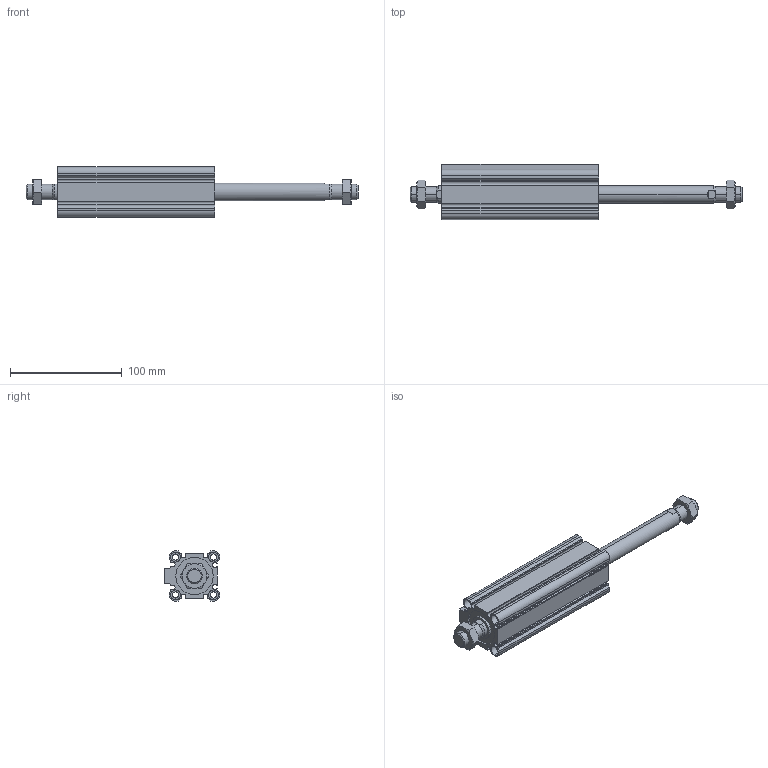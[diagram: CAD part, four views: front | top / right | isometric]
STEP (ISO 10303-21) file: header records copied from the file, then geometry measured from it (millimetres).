
FILE_DESCRIPTION (( 'STEP AP203' ), '1' );
FILE_NAME ('CCMB32-100M-P.STEP', '2020-08-10T11:36:37', ( '' ), ( '' ), 'SwSTEP 2.0', 'SolidWorks 2019', '' );
FILE_SCHEMA (( 'CONFIG_CONTROL_DESIGN' ));
Length unit declared in the file: millimetre
Products named in the file (1): CCMB32-100M-P
Bounding box: 297.5 x 49.5 x 45 mm (x, y, z)
Volume: 203257.5 mm3; surface area: 84162.2 mm2
Topology: 4 solids, 4 shells, 216 faces, 522 edges, 332 vertices
Faces by surface type: plane 94, cylinder 78, cone 44
Entity records: 7009 total; most frequent: CARTESIAN_POINT 1819, DIRECTION 1088, ORIENTED_EDGE 1044, EDGE_CURVE 522, AXIS2_PLACEMENT_3D 413, VERTEX_POINT 332, LINE 262, VECTOR 262
